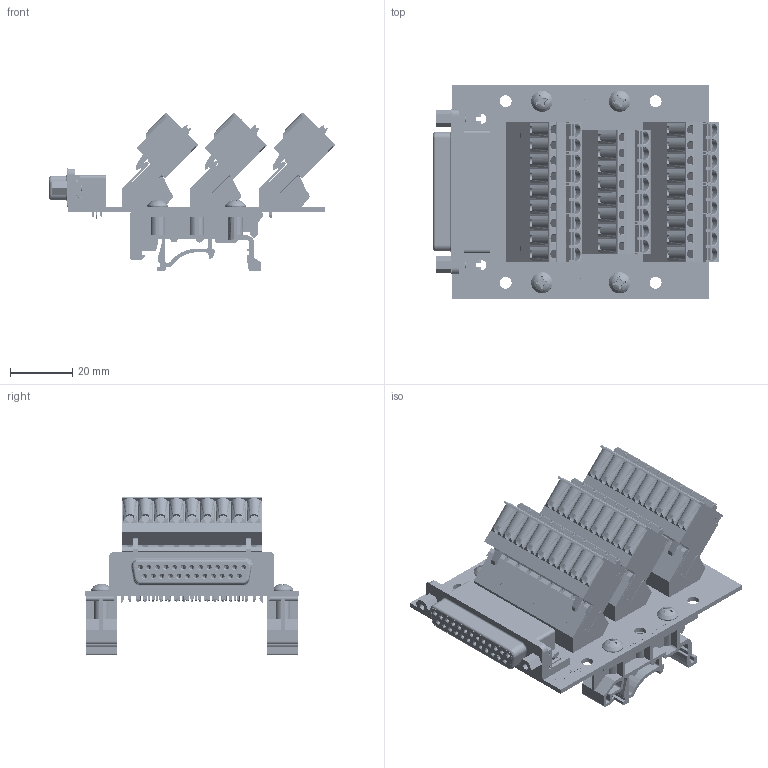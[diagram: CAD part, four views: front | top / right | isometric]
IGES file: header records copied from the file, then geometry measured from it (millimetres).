
Start section: SolidWorks IGES file using analytic representation for surfaces
Global section: file name: D:\Documents\Winford Engineering Jobs\BRKLD25\BRKLD25F\brkld25f-rg-din_rev_a.igs; native system: SolidWorks 2017; preprocessor: SolidWorks 2017; author: mudhf; date: 200722.000509; units: inch
Bounding box: 92.02 x 68.58 x 51.02 mm (x, y, z)
Surface area: 60997.5 mm2 (no closed solid volume)
Topology: 0 solids, 0 shells, 12302 faces, 77061 edges, 77057 vertices
Faces by surface type: bspline 9364, revolution 2938
